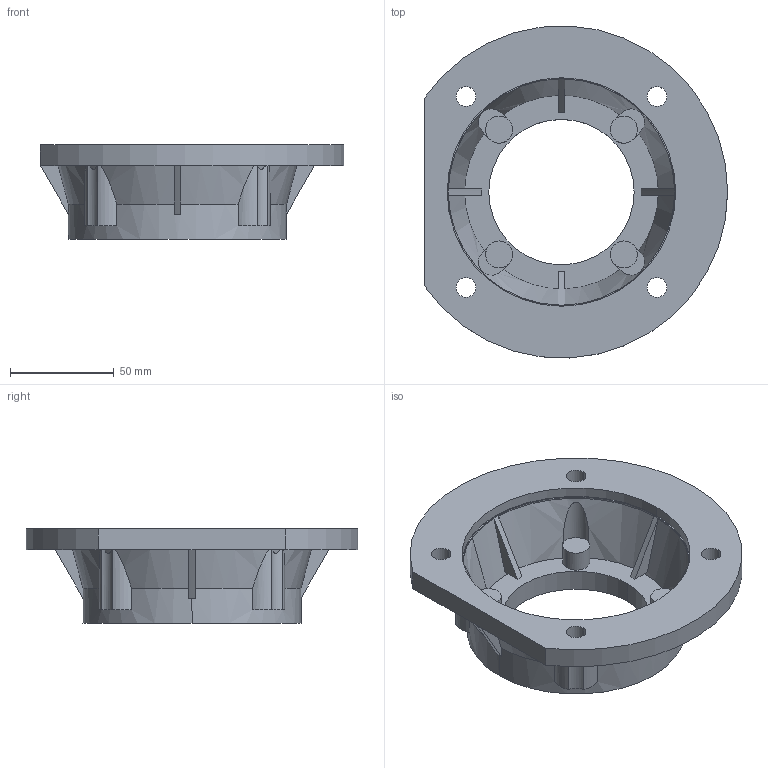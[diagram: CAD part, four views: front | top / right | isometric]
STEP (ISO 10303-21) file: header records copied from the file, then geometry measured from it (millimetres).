
FILE_DESCRIPTION(/* description */ (''),/* implementation_level */ '2;1');
FILE_NAME(/* name */ '3_FLANGIA (CAMPANA) LATERALE FC BA42',/* time_stamp */ '2025-10-22T11:38:35+02:00',/* author */ (''),/* organization */ (''),/* preprocessor_version */ 'ST-DEVELOPER v19.2',/* originating_system */ 'Rhino 8.23',/* authorisation */ '');
FILE_SCHEMA (('CONFIG_CONTROL_DESIGN'));
Length unit declared in the file: millimetre
Products named in the file (2): Document; BFUA42FC
Bounding box: 146 x 159.83 x 45.5 mm (x, y, z)
Volume: 193477.6 mm3; surface area: 63056.3 mm2
Topology: 1 solids, 1 shells, 113 faces, 328 edges, 218 vertices
Faces by surface type: plane 50, cylinder 41, bspline 22
Entity records: 5573 total; most frequent: CARTESIAN_POINT 1691, ORIENTED_EDGE 652, DIRECTION 417, EDGE_CURVE 326, AXIS2_PLACEMENT_3D 254, VERTEX_POINT 217, B_SPLINE_CURVE_WITH_KNOTS 167, TRIMMED_CURVE 159
